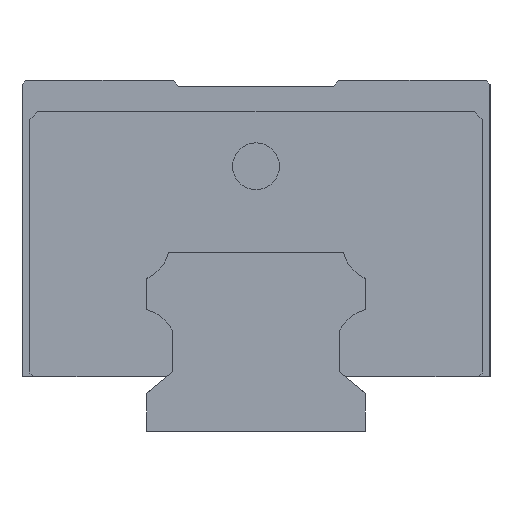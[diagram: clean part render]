
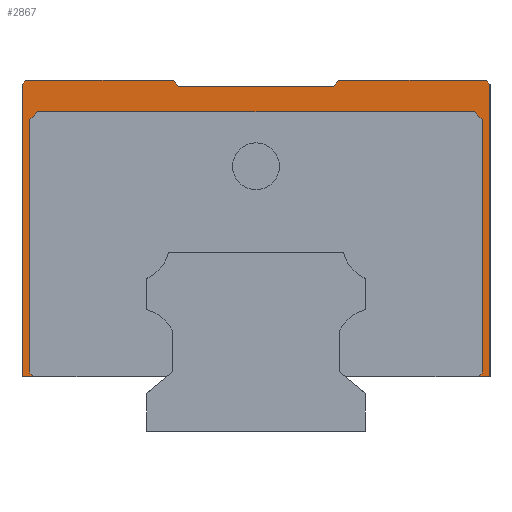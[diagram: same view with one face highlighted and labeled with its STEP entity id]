
A CAD part, left-side view. The second image highlights one B-rep face of the part: STEP entity #2867.
In plain terms, the highlighted planar face has unit normal (-1, 0, 0).
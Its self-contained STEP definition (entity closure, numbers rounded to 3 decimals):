
#1 = VECTOR ( 'NONE', #465, 1000. ) ;
#103 = ORIENTED_EDGE ( 'NONE', *, *, #2814, .T. ) ;
#116 = LINE ( 'NONE', #973, #1249 ) ;
#136 = CARTESIAN_POINT ( 'NONE',  ( -52.5, -29., 40. ) ) ;
#139 = VECTOR ( 'NONE', #1651, 1000. ) ;
#145 = DIRECTION ( 'NONE',  ( 0., 0.707, 0.707 ) ) ;
#175 = CARTESIAN_POINT ( 'NONE',  ( -52.5, 11.769, 7. ) ) ;
#214 = VERTEX_POINT ( 'NONE', #756 ) ;
#218 = DIRECTION ( 'NONE',  ( 0., 0., -1. ) ) ;
#230 = VERTEX_POINT ( 'NONE', #991 ) ;
#261 = CARTESIAN_POINT ( 'NONE',  ( -52.5, -30., 45. ) ) ;
#364 = VECTOR ( 'NONE', #3950, 1000. ) ;
#465 = DIRECTION ( 'NONE',  ( 0., 0.643, 0.766 ) ) ;
#484 = CARTESIAN_POINT ( 'NONE',  ( -52.5, -10., 44.25 ) ) ;
#658 = EDGE_CURVE ( 'NONE', #1845, #4310, #2360, .T. ) ;
#704 = EDGE_CURVE ( 'NONE', #5322, #755, #2139, .T. ) ;
#749 = CARTESIAN_POINT ( 'NONE',  ( -52.5, 29., 7.5 ) ) ;
#752 = VECTOR ( 'NONE', #4759, 1000. ) ;
#755 = VERTEX_POINT ( 'NONE', #3787 ) ;
#756 = CARTESIAN_POINT ( 'NONE',  ( -52.5, -28., 41. ) ) ;
#760 = VERTEX_POINT ( 'NONE', #1329 ) ;
#782 = DIRECTION ( 'NONE',  ( 0., 0., -1. ) ) ;
#784 = CARTESIAN_POINT ( 'NONE',  ( -52.5, 10., 44.25 ) ) ;
#849 = VERTEX_POINT ( 'NONE', #3467 ) ;
#892 = CARTESIAN_POINT ( 'NONE',  ( -52.5, 28.5, 7. ) ) ;
#973 = CARTESIAN_POINT ( 'NONE',  ( -52.5, -28., 41. ) ) ;
#979 = DIRECTION ( 'NONE',  ( 0., 0., 1. ) ) ;
#991 = CARTESIAN_POINT ( 'NONE',  ( -52.5, -29., 40. ) ) ;
#1141 = ORIENTED_EDGE ( 'NONE', *, *, #2334, .T. ) ;
#1168 = CARTESIAN_POINT ( 'NONE',  ( -52.5, 29., 40. ) ) ;
#1249 = VECTOR ( 'NONE', #4652, 1000. ) ;
#1260 = LINE ( 'NONE', #5398, #4420 ) ;
#1275 = EDGE_CURVE ( 'NONE', #755, #214, #4822, .T. ) ;
#1302 = VERTEX_POINT ( 'NONE', #1804 ) ;
#1329 = CARTESIAN_POINT ( 'NONE',  ( -52.5, -30., 44.5 ) ) ;
#1328 = DIRECTION ( 'NONE',  ( 0., 1., 0. ) ) ;
#1474 = CARTESIAN_POINT ( 'NONE',  ( -52.5, 10.629, 45. ) ) ;
#1539 = ORIENTED_EDGE ( 'NONE', *, *, #3896, .T. ) ;
#1565 = VERTEX_POINT ( 'NONE', #892 ) ;
#1593 = EDGE_CURVE ( 'NONE', #1612, #4534, #3856, .T. ) ;
#1595 = DIRECTION ( 'NONE',  ( 0., 0.643, -0.766 ) ) ;
#1612 = VERTEX_POINT ( 'NONE', #3032 ) ;
#1628 = LINE ( 'NONE', #4433, #5423 ) ;
#1651 = DIRECTION ( 'NONE',  ( 0., 0.707, -0.707 ) ) ;
#1717 = ORIENTED_EDGE ( 'NONE', *, *, #1593, .T. ) ;
#1749 = VERTEX_POINT ( 'NONE', #1474 ) ;
#1804 = CARTESIAN_POINT ( 'NONE',  ( -52.5, 29., 7.5 ) ) ;
#1845 = VERTEX_POINT ( 'NONE', #3247 ) ;
#1872 = AXIS2_PLACEMENT_3D ( 'NONE', #3827, #2231, #4677 ) ;
#1877 = ORIENTED_EDGE ( 'NONE', *, *, #4326, .T. ) ;
#1878 = ORIENTED_EDGE ( 'NONE', *, *, #704, .T. ) ;
#1911 = LINE ( 'NONE', #3597, #364 ) ;
#1962 = EDGE_CURVE ( 'NONE', #3308, #4439, #4727, .T. ) ;
#2077 = ORIENTED_EDGE ( 'NONE', *, *, #5135, .F. ) ;
#2139 = LINE ( 'NONE', #2519, #2930 ) ;
#2231 = DIRECTION ( 'NONE',  ( 1., 0., 0. ) ) ;
#2252 = LINE ( 'NONE', #4267, #4340 ) ;
#2275 = EDGE_CURVE ( 'NONE', #4534, #1749, #4578, .T. ) ;
#2334 = EDGE_CURVE ( 'NONE', #1565, #1302, #1260, .T. ) ;
#2360 = LINE ( 'NONE', #2409, #3107 ) ;
#2366 = ORIENTED_EDGE ( 'NONE', *, *, #658, .T. ) ;
#2409 = CARTESIAN_POINT ( 'NONE',  ( -52.5, -29., 7.5 ) ) ;
#2417 = ORIENTED_EDGE ( 'NONE', *, *, #1962, .F. ) ;
#2499 = ORIENTED_EDGE ( 'NONE', *, *, #2275, .T. ) ;
#2519 = CARTESIAN_POINT ( 'NONE',  ( -52.5, 29., 40. ) ) ;
#2552 = VERTEX_POINT ( 'NONE', #3203 ) ;
#2597 = CARTESIAN_POINT ( 'NONE',  ( -52.5, 10., 44.25 ) ) ;
#2740 = CARTESIAN_POINT ( 'NONE',  ( -52.5, -10.629, 45. ) ) ;
#2758 = ORIENTED_EDGE ( 'NONE', *, *, #3411, .F. ) ;
#2814 = EDGE_CURVE ( 'NONE', #214, #230, #116, .T. ) ;
#2867 = ADVANCED_FACE ( 'NONE', ( #3500 ), #3416, .F. ) ;
#2874 = EDGE_CURVE ( 'NONE', #760, #4439, #2252, .T. ) ;
#2914 = DIRECTION ( 'NONE',  ( 0., 0., 1. ) ) ;
#2930 = VECTOR ( 'NONE', #3870, 1000. ) ;
#2956 = ORIENTED_EDGE ( 'NONE', *, *, #5088, .F. ) ;
#3032 = CARTESIAN_POINT ( 'NONE',  ( -52.5, -10., 44.25 ) ) ;
#3058 = LINE ( 'NONE', #3913, #5341 ) ;
#3107 = VECTOR ( 'NONE', #3655, 1000. ) ;
#3140 = VECTOR ( 'NONE', #2914, 1000. ) ;
#3203 = CARTESIAN_POINT ( 'NONE',  ( -52.5, -30., 7. ) ) ;
#3247 = CARTESIAN_POINT ( 'NONE',  ( -52.5, -29., 7.5 ) ) ;
#3252 = CARTESIAN_POINT ( 'NONE',  ( -52.5, 30., 44.5 ) ) ;
#3259 = ORIENTED_EDGE ( 'NONE', *, *, #2874, .T. ) ;
#3270 = EDGE_CURVE ( 'NONE', #2552, #4310, #5136, .T. ) ;
#3308 = VERTEX_POINT ( 'NONE', #2740 ) ;
#3380 = EDGE_CURVE ( 'NONE', #230, #1845, #4882, .T. ) ;
#3407 = CARTESIAN_POINT ( 'NONE',  ( -52.5, 30., 45. ) ) ;
#3411 = EDGE_CURVE ( 'NONE', #849, #1749, #1911, .T. ) ;
#3416 = PLANE ( 'NONE',  #1872 ) ;
#3467 = CARTESIAN_POINT ( 'NONE',  ( -52.5, 29.5, 45. ) ) ;
#3497 = CARTESIAN_POINT ( 'NONE',  ( -52.5, -28.5, 7. ) ) ;
#3500 = FACE_OUTER_BOUND ( 'NONE', #5017, .T. ) ;
#3597 = CARTESIAN_POINT ( 'NONE',  ( -52.5, 30., 45. ) ) ;
#3618 = ORIENTED_EDGE ( 'NONE', *, *, #1275, .T. ) ;
#3655 = DIRECTION ( 'NONE',  ( 0., 0.707, -0.707 ) ) ;
#3694 = CARTESIAN_POINT ( 'NONE',  ( -52.5, 29.5, 45. ) ) ;
#3787 = CARTESIAN_POINT ( 'NONE',  ( -52.5, 28., 41. ) ) ;
#3827 = CARTESIAN_POINT ( 'NONE',  ( -52.5, -30., 45. ) ) ;
#3850 = VERTEX_POINT ( 'NONE', #3252 ) ;
#3856 = LINE ( 'NONE', #484, #4135 ) ;
#3870 = DIRECTION ( 'NONE',  ( 0., -0.707, 0.707 ) ) ;
#3896 = EDGE_CURVE ( 'NONE', #1302, #5322, #4156, .T. ) ;
#3913 = CARTESIAN_POINT ( 'NONE',  ( -52.5, 30., 7. ) ) ;
#3919 = ORIENTED_EDGE ( 'NONE', *, *, #4787, .T. ) ;
#3950 = DIRECTION ( 'NONE',  ( 0., -1., 0. ) ) ;
#4057 = VECTOR ( 'NONE', #5021, 1000. ) ;
#4132 = LINE ( 'NONE', #261, #5251 ) ;
#4135 = VECTOR ( 'NONE', #5115, 1000. ) ;
#4156 = LINE ( 'NONE', #749, #3140 ) ;
#4267 = CARTESIAN_POINT ( 'NONE',  ( -52.5, -30., 44.5 ) ) ;
#4310 = VERTEX_POINT ( 'NONE', #3497 ) ;
#4326 = EDGE_CURVE ( 'NONE', #3308, #1612, #1628, .T. ) ;
#4337 = CARTESIAN_POINT ( 'NONE',  ( -52.5, 28., 41. ) ) ;
#4340 = VECTOR ( 'NONE', #145, 1000. ) ;
#4420 = VECTOR ( 'NONE', #5062, 1000. ) ;
#4433 = CARTESIAN_POINT ( 'NONE',  ( -52.5, -10.629, 45. ) ) ;
#4439 = VERTEX_POINT ( 'NONE', #5244 ) ;
#4447 = VERTEX_POINT ( 'NONE', #4830 ) ;
#4534 = VERTEX_POINT ( 'NONE', #2597 ) ;
#4578 = LINE ( 'NONE', #784, #1 ) ;
#4586 = ORIENTED_EDGE ( 'NONE', *, *, #3380, .T. ) ;
#4652 = DIRECTION ( 'NONE',  ( 0., -0.707, -0.707 ) ) ;
#4675 = ORIENTED_EDGE ( 'NONE', *, *, #3270, .F. ) ;
#4677 = DIRECTION ( 'NONE',  ( 0., 1., 0. ) ) ;
#4727 = LINE ( 'NONE', #3407, #4057 ) ;
#4733 = EDGE_CURVE ( 'NONE', #760, #2552, #4132, .T. ) ;
#4750 = CARTESIAN_POINT ( 'NONE',  ( -52.5, -30., 7. ) ) ;
#4759 = DIRECTION ( 'NONE',  ( 0., 1., 0. ) ) ;
#4787 = EDGE_CURVE ( 'NONE', #849, #3850, #5312, .T. ) ;
#4822 = LINE ( 'NONE', #4337, #5004 ) ;
#4830 = CARTESIAN_POINT ( 'NONE',  ( -52.5, 30., 7. ) ) ;
#4838 = LINE ( 'NONE', #175, #752 ) ;
#4882 = LINE ( 'NONE', #136, #5215 ) ;
#4929 = VECTOR ( 'NONE', #1328, 1000. ) ;
#5004 = VECTOR ( 'NONE', #5184, 1000. ) ;
#5017 = EDGE_LOOP ( 'NONE', ( #2077, #1141, #1539, #1878, #3618, #103, #4586, #2366, #4675, #5347, #3259, #2417, #1877, #1717, #2499, #2758, #3919, #2956 ) ) ;
#5021 = DIRECTION ( 'NONE',  ( 0., -1., 0. ) ) ;
#5062 = DIRECTION ( 'NONE',  ( 0., 0.707, 0.707 ) ) ;
#5088 = EDGE_CURVE ( 'NONE', #4447, #3850, #3058, .T. ) ;
#5115 = DIRECTION ( 'NONE',  ( 0., 1., 0. ) ) ;
#5135 = EDGE_CURVE ( 'NONE', #1565, #4447, #4838, .T. ) ;
#5136 = LINE ( 'NONE', #4750, #4929 ) ;
#5184 = DIRECTION ( 'NONE',  ( 0., -1., 0. ) ) ;
#5215 = VECTOR ( 'NONE', #218, 1000. ) ;
#5244 = CARTESIAN_POINT ( 'NONE',  ( -52.5, -29.5, 45. ) ) ;
#5251 = VECTOR ( 'NONE', #782, 1000. ) ;
#5312 = LINE ( 'NONE', #3694, #139 ) ;
#5322 = VERTEX_POINT ( 'NONE', #1168 ) ;
#5341 = VECTOR ( 'NONE', #979, 1000. ) ;
#5347 = ORIENTED_EDGE ( 'NONE', *, *, #4733, .F. ) ;
#5398 = CARTESIAN_POINT ( 'NONE',  ( -52.5, 28.5, 7. ) ) ;
#5423 = VECTOR ( 'NONE', #1595, 1000. ) ;
